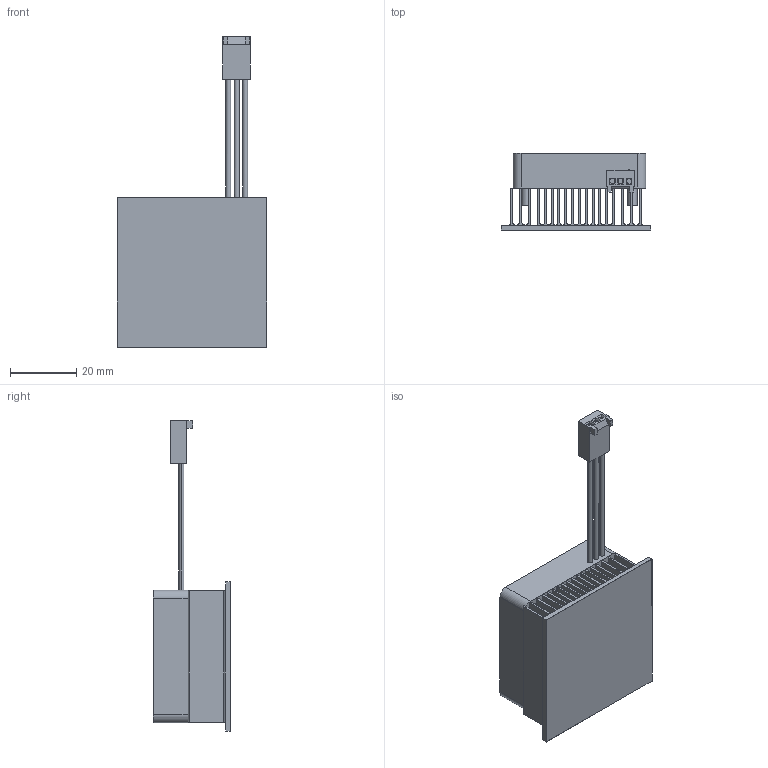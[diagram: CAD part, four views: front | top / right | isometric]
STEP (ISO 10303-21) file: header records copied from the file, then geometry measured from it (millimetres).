
FILE_DESCRIPTION (( 'STEP AP214' ), '1' );
FILE_NAME ('FA45.STEP', '2023-03-07T17:36:43', ( '' ), ( '' ), 'SwSTEP 2.0', 'SolidWorks 2020', '' );
FILE_SCHEMA (( 'AUTOMOTIVE_DESIGN' ));
Length unit declared in the file: millimetre
Products named in the file (1): FA45
Bounding box: 45 x 23.33 x 93.5 mm (x, y, z)
Volume: 17076.9 mm3; surface area: 33041.1 mm2
Topology: 7 solids, 7 shells, 399 faces, 1079 edges, 696 vertices
Faces by surface type: plane 288, cylinder 89, bspline 14, cone 8
Entity records: 17124 total; most frequent: CARTESIAN_POINT 2615, ORIENTED_EDGE 2158, DIRECTION 1977, EDGE_CURVE 1079, VECTOR 797, LINE 797, VERTEX_POINT 696, AXIS2_PLACEMENT_3D 590
